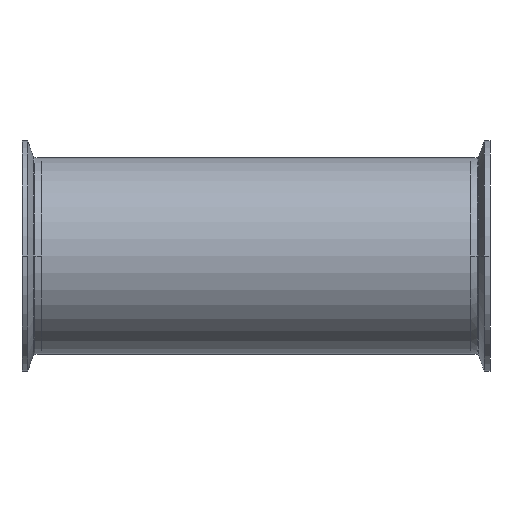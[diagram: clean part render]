
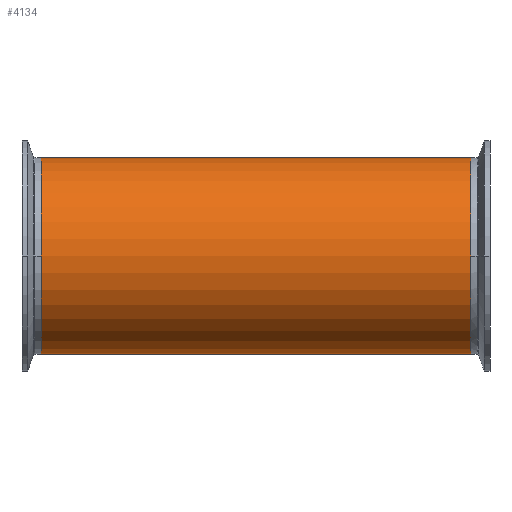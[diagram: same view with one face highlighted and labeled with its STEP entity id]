
A CAD part, front view. The second image highlights one B-rep face of the part: STEP entity #4134.
In plain terms, the highlighted cylindrical face has radius 50.8 mm (diameter 101.6 mm), a partial arc.
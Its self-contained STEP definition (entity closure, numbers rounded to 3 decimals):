
#199 = EDGE_CURVE ( 'NONE', #4032, #836, #211, .T. ) ;
#211 = CIRCLE ( 'NONE', #3903, 50.8 ) ;
#234 = CARTESIAN_POINT ( 'NONE',  ( -110.7, 0., 0. ) ) ;
#322 = ORIENTED_EDGE ( 'NONE', *, *, #1129, .T. ) ;
#385 = LINE ( 'NONE', #890, #1677 ) ;
#467 = CARTESIAN_POINT ( 'NONE',  ( 110.7, 0., -50.8 ) ) ;
#503 = FACE_OUTER_BOUND ( 'NONE', #1558, .T. ) ;
#603 = DIRECTION ( 'NONE',  ( 0., 0., 1. ) ) ;
#708 = CARTESIAN_POINT ( 'NONE',  ( -110.7, 0., 50.8 ) ) ;
#724 = EDGE_CURVE ( 'NONE', #1561, #932, #4630, .T. ) ;
#836 = VERTEX_POINT ( 'NONE', #4644 ) ;
#867 = DIRECTION ( 'NONE',  ( 0., 0., 1. ) ) ;
#875 = CARTESIAN_POINT ( 'NONE',  ( 254.384, 0., 0. ) ) ;
#887 = DIRECTION ( 'NONE',  ( -1., 0., 0. ) ) ;
#890 = CARTESIAN_POINT ( 'NONE',  ( 254.384, 0., 50.8 ) ) ;
#903 = CARTESIAN_POINT ( 'NONE',  ( 254.384, 0., -50.8 ) ) ;
#932 = VERTEX_POINT ( 'NONE', #3477 ) ;
#1121 = EDGE_CURVE ( 'NONE', #1561, #836, #1795, .T. ) ;
#1129 = EDGE_CURVE ( 'NONE', #932, #4032, #385, .T. ) ;
#1199 = AXIS2_PLACEMENT_3D ( 'NONE', #875, #1247, #867 ) ;
#1247 = DIRECTION ( 'NONE',  ( -1., 0., 0. ) ) ;
#1558 = EDGE_LOOP ( 'NONE', ( #4443, #2314, #322, #1622 ) ) ;
#1561 = VERTEX_POINT ( 'NONE', #467 ) ;
#1588 = DIRECTION ( 'NONE',  ( -1., 0., 0. ) ) ;
#1622 = ORIENTED_EDGE ( 'NONE', *, *, #199, .T. ) ;
#1677 = VECTOR ( 'NONE', #887, 1000. ) ;
#1795 = LINE ( 'NONE', #903, #3636 ) ;
#2154 = AXIS2_PLACEMENT_3D ( 'NONE', #3547, #3834, #4535 ) ;
#2314 = ORIENTED_EDGE ( 'NONE', *, *, #724, .T. ) ;
#2369 = CYLINDRICAL_SURFACE ( 'NONE', #1199, 50.8 ) ;
#2847 = DIRECTION ( 'NONE',  ( 1., 0., 0. ) ) ;
#3477 = CARTESIAN_POINT ( 'NONE',  ( 110.7, 0., 50.8 ) ) ;
#3547 = CARTESIAN_POINT ( 'NONE',  ( 110.7, 0., 0. ) ) ;
#3636 = VECTOR ( 'NONE', #1588, 1000. ) ;
#3834 = DIRECTION ( 'NONE',  ( -1., 0., 0. ) ) ;
#3903 = AXIS2_PLACEMENT_3D ( 'NONE', #234, #2847, #603 ) ;
#4032 = VERTEX_POINT ( 'NONE', #708 ) ;
#4134 = ADVANCED_FACE ( 'NONE', ( #503 ), #2369, .T. ) ;
#4443 = ORIENTED_EDGE ( 'NONE', *, *, #1121, .F. ) ;
#4535 = DIRECTION ( 'NONE',  ( 0., 0., 1. ) ) ;
#4630 = CIRCLE ( 'NONE', #2154, 50.8 ) ;
#4644 = CARTESIAN_POINT ( 'NONE',  ( -110.7, 0., -50.8 ) ) ;
